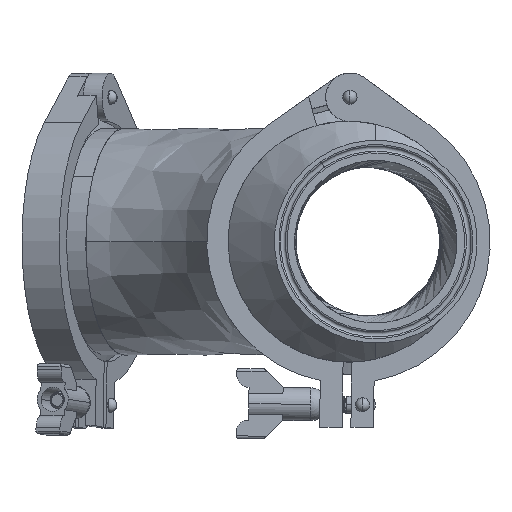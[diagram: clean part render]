
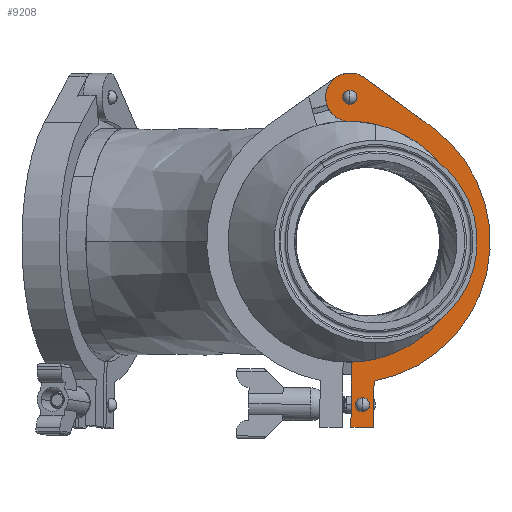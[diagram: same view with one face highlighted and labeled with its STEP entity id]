
A CAD part, left-side view. The second image highlights one B-rep face of the part: STEP entity #9208.
In plain terms, the highlighted planar face has unit normal (-1, 0, 0).
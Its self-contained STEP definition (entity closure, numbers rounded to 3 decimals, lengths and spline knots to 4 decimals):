
#580 = CARTESIAN_POINT ( 'NONE',  ( 2.5938, 3.395, 9.2558 ) ) ;
#690 = DIRECTION ( 'NONE',  ( -1., 0., 0. ) ) ;
#895 = EDGE_CURVE ( 'NONE', #13142, #16175, #12381, .T. ) ;
#1923 = EDGE_CURVE ( 'NONE', #30270, #19774, #19752, .T. ) ;
#2060 = FACE_BOUND ( 'NONE', #17316, .T. ) ;
#2226 = DIRECTION ( 'NONE',  ( -1., 0., 0. ) ) ;
#2263 = CARTESIAN_POINT ( 'NONE',  ( 2.5938, 4.7938, 7.2357 ) ) ;
#2290 = ORIENTED_EDGE ( 'NONE', *, *, #21425, .F. ) ;
#3119 = CARTESIAN_POINT ( 'NONE',  ( 2.5938, 4.4262, 3.9569 ) ) ;
#3298 = CARTESIAN_POINT ( 'NONE',  ( 2.5938, 4.8688, 7.2364 ) ) ;
#3329 = CARTESIAN_POINT ( 'NONE',  ( 2.5938, 4.4179, 4.7972 ) ) ;
#3770 = CARTESIAN_POINT ( 'NONE',  ( 2.5938, 4.8428, 9.8663 ) ) ;
#4258 = VERTEX_POINT ( 'NONE', #580 ) ;
#4960 = VECTOR ( 'NONE', #32554, 39.3701 ) ;
#5319 = ORIENTED_EDGE ( 'NONE', *, *, #7796, .F. ) ;
#6098 = DIRECTION ( 'NONE',  ( 0., -0.01, 1. ) ) ;
#6257 = VECTOR ( 'NONE', #11087, 39.3701 ) ;
#7244 = CARTESIAN_POINT ( 'NONE',  ( 2.5938, 4.4262, 3.9569 ) ) ;
#7298 = VECTOR ( 'NONE', #22780, 39.3701 ) ;
#7796 = EDGE_CURVE ( 'NONE', #30270, #26528, #11212, .T. ) ;
#8505 = CIRCLE ( 'NONE', #11546, 2.5 ) ;
#8625 = EDGE_LOOP ( 'NONE', ( #23270, #9409, #23612, #5319, #15265, #15113, #19754 ) ) ;
#8764 = CARTESIAN_POINT ( 'NONE',  ( 2.5938, 4.8436, 9.7838 ) ) ;
#9010 = VERTEX_POINT ( 'NONE', #3770 ) ;
#9208 = ADVANCED_FACE ( 'NONE', ( #9434, #16838, #2060 ), #23566, .T. ) ;
#9409 = ORIENTED_EDGE ( 'NONE', *, *, #33358, .F. ) ;
#9434 = FACE_BOUND ( 'NONE', #20921, .T. ) ;
#9816 = CARTESIAN_POINT ( 'NONE',  ( 2.5938, 4.8935, 4.7366 ) ) ;
#10321 = EDGE_CURVE ( 'NONE', #9010, #34597, #31516, .T. ) ;
#10513 = CARTESIAN_POINT ( 'NONE',  ( 2.5938, 4.8148, 5.1171 ) ) ;
#10636 = AXIS2_PLACEMENT_3D ( 'NONE', #18834, #2226, #21646 ) ;
#10976 = LINE ( 'NONE', #7244, #24895 ) ;
#11087 = DIRECTION ( 'NONE',  ( 0., -0.808, -0.59 ) ) ;
#11115 = CARTESIAN_POINT ( 'NONE',  ( 2.5938, 4.623, 4.2789 ) ) ;
#11212 = CIRCLE ( 'NONE', #20072, 2.12 ) ;
#11546 = AXIS2_PLACEMENT_3D ( 'NONE', #3298, #22747, #6098 ) ;
#11552 = DIRECTION ( 'NONE',  ( 0., 0.01, -1. ) ) ;
#11897 = DIRECTION ( 'NONE',  ( 1., 0., 0. ) ) ;
#12020 = ORIENTED_EDGE ( 'NONE', *, *, #895, .F. ) ;
#12381 = CIRCLE ( 'NONE', #10636, 0.08 ) ;
#12638 = AXIS2_PLACEMENT_3D ( 'NONE', #31322, #14739, #34119 ) ;
#12730 = LINE ( 'NONE', #33257, #6257 ) ;
#12837 = EDGE_CURVE ( 'NONE', #32729, #19774, #10976, .T. ) ;
#13045 = DIRECTION ( 'NONE',  ( 0., 1., 0.01 ) ) ;
#13142 = VERTEX_POINT ( 'NONE', #11115 ) ;
#14679 = LINE ( 'NONE', #3329, #7298 ) ;
#14714 = CARTESIAN_POINT ( 'NONE',  ( 2.5938, 4.6222, 4.3589 ) ) ;
#14739 = DIRECTION ( 'NONE',  ( 1., 0., 0. ) ) ;
#15113 = ORIENTED_EDGE ( 'NONE', *, *, #12837, .F. ) ;
#15265 = ORIENTED_EDGE ( 'NONE', *, *, #1923, .T. ) ;
#16175 = VERTEX_POINT ( 'NONE', #31838 ) ;
#16838 = FACE_OUTER_BOUND ( 'NONE', #8625, .T. ) ;
#17259 = CARTESIAN_POINT ( 'NONE',  ( 2.5938, 4.8444, 9.7013 ) ) ;
#17314 = CARTESIAN_POINT ( 'NONE',  ( 2.5938, 4.8688, 7.2364 ) ) ;
#17316 = EDGE_LOOP ( 'NONE', ( #23201, #21107 ) ) ;
#17507 = DIRECTION ( 'NONE',  ( 0., -0.01, 1. ) ) ;
#18116 = VERTEX_POINT ( 'NONE', #18320 ) ;
#18209 = DIRECTION ( 'NONE',  ( 0., -0.01, 1. ) ) ;
#18320 = CARTESIAN_POINT ( 'NONE',  ( 2.5938, 4.5916, 10.1291 ) ) ;
#18834 = CARTESIAN_POINT ( 'NONE',  ( 2.5938, 4.6222, 4.3589 ) ) ;
#19246 = CIRCLE ( 'NONE', #27982, 0.0825 ) ;
#19373 = CARTESIAN_POINT ( 'NONE',  ( 2.5938, 4.8262, 3.9609 ) ) ;
#19752 = LINE ( 'NONE', #2263, #4960 ) ;
#19754 = ORIENTED_EDGE ( 'NONE', *, *, #20094, .T. ) ;
#19774 = VERTEX_POINT ( 'NONE', #19373 ) ;
#20072 = AXIS2_PLACEMENT_3D ( 'NONE', #17314, #690, #20092 ) ;
#20092 = DIRECTION ( 'NONE',  ( 0., -0.01, 1. ) ) ;
#20094 = EDGE_CURVE ( 'NONE', #32729, #27059, #14679, .T. ) ;
#20921 = EDGE_LOOP ( 'NONE', ( #12020, #2290 ) ) ;
#21107 = ORIENTED_EDGE ( 'NONE', *, *, #10321, .T. ) ;
#21425 = EDGE_CURVE ( 'NONE', #16175, #13142, #22446, .T. ) ;
#21646 = DIRECTION ( 'NONE',  ( 0., -0.01, 1. ) ) ;
#22446 = CIRCLE ( 'NONE', #35931, 0.08 ) ;
#22487 = EDGE_CURVE ( 'NONE', #26528, #18116, #30605, .T. ) ;
#22497 = EDGE_CURVE ( 'NONE', #27059, #4258, #8505, .T. ) ;
#22747 = DIRECTION ( 'NONE',  ( -1., 0., 0. ) ) ;
#22780 = DIRECTION ( 'NONE',  ( 0., -0.01, 1. ) ) ;
#23201 = ORIENTED_EDGE ( 'NONE', *, *, #34647, .T. ) ;
#23270 = ORIENTED_EDGE ( 'NONE', *, *, #22497, .T. ) ;
#23431 = CARTESIAN_POINT ( 'NONE',  ( 2.5938, 4.8478, 9.3563 ) ) ;
#23566 = PLANE ( 'NONE',  #31440 ) ;
#23612 = ORIENTED_EDGE ( 'NONE', *, *, #22487, .F. ) ;
#24895 = VECTOR ( 'NONE', #13045, 39.3701 ) ;
#26528 = VERTEX_POINT ( 'NONE', #23431 ) ;
#27059 = VERTEX_POINT ( 'NONE', #34851 ) ;
#27982 = AXIS2_PLACEMENT_3D ( 'NONE', #28506, #11897, #31284 ) ;
#28162 = DIRECTION ( 'NONE',  ( 1., 0., 0. ) ) ;
#28506 = CARTESIAN_POINT ( 'NONE',  ( 2.5938, 4.8436, 9.7838 ) ) ;
#30270 = VERTEX_POINT ( 'NONE', #10513 ) ;
#30605 = CIRCLE ( 'NONE', #34523, 0.4275 ) ;
#31284 = DIRECTION ( 'NONE',  ( 0., 0.01, -1. ) ) ;
#31322 = CARTESIAN_POINT ( 'NONE',  ( 2.5938, 4.8436, 9.7838 ) ) ;
#31440 = AXIS2_PLACEMENT_3D ( 'NONE', #9816, #34778, #18209 ) ;
#31516 = CIRCLE ( 'NONE', #12638, 0.0825 ) ;
#31838 = CARTESIAN_POINT ( 'NONE',  ( 2.5938, 4.6215, 4.4389 ) ) ;
#32554 = DIRECTION ( 'NONE',  ( 0., 0.01, -1. ) ) ;
#32729 = VERTEX_POINT ( 'NONE', #3119 ) ;
#33257 = CARTESIAN_POINT ( 'NONE',  ( 2.5938, 4.5916, 10.1291 ) ) ;
#33358 = EDGE_CURVE ( 'NONE', #18116, #4258, #12730, .T. ) ;
#34095 = DIRECTION ( 'NONE',  ( -1., 0., 0. ) ) ;
#34119 = DIRECTION ( 'NONE',  ( 0., 0.01, -1. ) ) ;
#34523 = AXIS2_PLACEMENT_3D ( 'NONE', #8764, #28162, #11552 ) ;
#34597 = VERTEX_POINT ( 'NONE', #17259 ) ;
#34647 = EDGE_CURVE ( 'NONE', #34597, #9010, #19246, .T. ) ;
#34778 = DIRECTION ( 'NONE',  ( -1., 0., 0. ) ) ;
#34851 = CARTESIAN_POINT ( 'NONE',  ( 2.5938, 4.4181, 4.7774 ) ) ;
#35931 = AXIS2_PLACEMENT_3D ( 'NONE', #14714, #34095, #17507 ) ;
